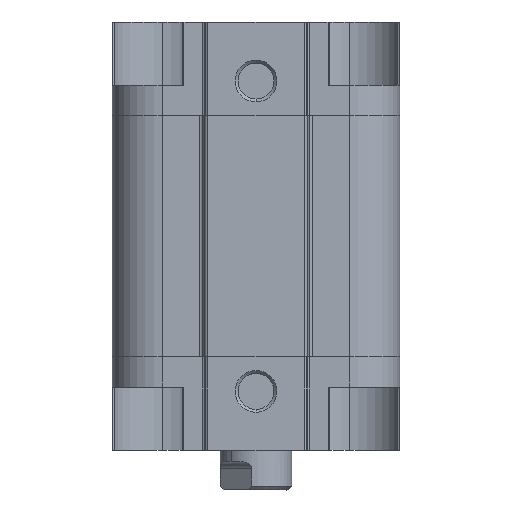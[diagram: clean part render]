
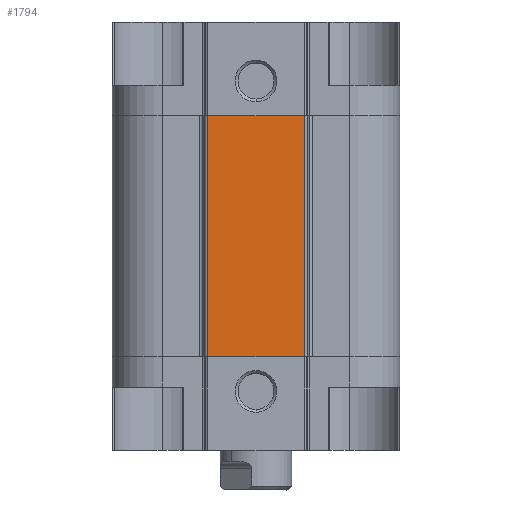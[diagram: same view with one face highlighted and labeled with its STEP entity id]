
A CAD part, front view. The second image highlights one B-rep face of the part: STEP entity #1794.
In plain terms, the highlighted planar face has unit normal (0, -1, 0).
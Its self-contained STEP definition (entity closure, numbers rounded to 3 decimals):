
#1347 = LINE ( 'NONE', #7334, #10049 ) ;
#1629 = CARTESIAN_POINT ( 'NONE',  ( 0., -21.5, 0. ) ) ;
#1644 = DIRECTION ( 'NONE',  ( 1., 0., 0. ) ) ;
#1794 = ADVANCED_FACE ( 'NONE', ( #6052 ), #6545, .F. ) ;
#2158 = ORIENTED_EDGE ( 'NONE', *, *, #2989, .F. ) ;
#2350 = ORIENTED_EDGE ( 'NONE', *, *, #9639, .F. ) ;
#2416 = CARTESIAN_POINT ( 'NONE',  ( 6.712, -21.5, 33.5 ) ) ;
#2493 = VECTOR ( 'NONE', #1644, 1000. ) ;
#2989 = EDGE_CURVE ( 'NONE', #4691, #7069, #7592, .T. ) ;
#3243 = DIRECTION ( 'NONE',  ( 1., 0., 0. ) ) ;
#3257 = CARTESIAN_POINT ( 'NONE',  ( 0., -21.5, 33.5 ) ) ;
#4582 = EDGE_LOOP ( 'NONE', ( #6988, #9115, #2158, #2350 ) ) ;
#4691 = VERTEX_POINT ( 'NONE', #2416 ) ;
#5263 = DIRECTION ( 'NONE',  ( 0., 0., -1. ) ) ;
#5384 = CARTESIAN_POINT ( 'NONE',  ( 6.712, -21.5, 16.75 ) ) ;
#5938 = CARTESIAN_POINT ( 'NONE',  ( -6.712, -21.5, 33.5 ) ) ;
#6052 = FACE_OUTER_BOUND ( 'NONE', #4582, .T. ) ;
#6113 = DIRECTION ( 'NONE',  ( 0., 0., 1. ) ) ;
#6191 = DIRECTION ( 'NONE',  ( 0., 1., 0. ) ) ;
#6394 = CARTESIAN_POINT ( 'NONE',  ( -6.712, -21.5, 0. ) ) ;
#6545 = PLANE ( 'NONE',  #10377 ) ;
#6625 = EDGE_CURVE ( 'NONE', #11133, #9083, #1347, .T. ) ;
#6988 = ORIENTED_EDGE ( 'NONE', *, *, #6625, .F. ) ;
#7069 = VERTEX_POINT ( 'NONE', #9981 ) ;
#7334 = CARTESIAN_POINT ( 'NONE',  ( -6.712, -21.5, 16.75 ) ) ;
#7416 = DIRECTION ( 'NONE',  ( 0., 0., 1. ) ) ;
#7592 = LINE ( 'NONE', #5384, #9407 ) ;
#8302 = LINE ( 'NONE', #1629, #2493 ) ;
#9083 = VERTEX_POINT ( 'NONE', #5938 ) ;
#9115 = ORIENTED_EDGE ( 'NONE', *, *, #11349, .T. ) ;
#9328 = VECTOR ( 'NONE', #3243, 1000. ) ;
#9407 = VECTOR ( 'NONE', #5263, 1000. ) ;
#9639 = EDGE_CURVE ( 'NONE', #9083, #4691, #11335, .T. ) ;
#9981 = CARTESIAN_POINT ( 'NONE',  ( 6.712, -21.5, 0. ) ) ;
#10011 = CARTESIAN_POINT ( 'NONE',  ( -6.712, -21.5, 0. ) ) ;
#10049 = VECTOR ( 'NONE', #7416, 1000. ) ;
#10377 = AXIS2_PLACEMENT_3D ( 'NONE', #6394, #6191, #6113 ) ;
#11133 = VERTEX_POINT ( 'NONE', #10011 ) ;
#11335 = LINE ( 'NONE', #3257, #9328 ) ;
#11349 = EDGE_CURVE ( 'NONE', #11133, #7069, #8302, .T. ) ;
